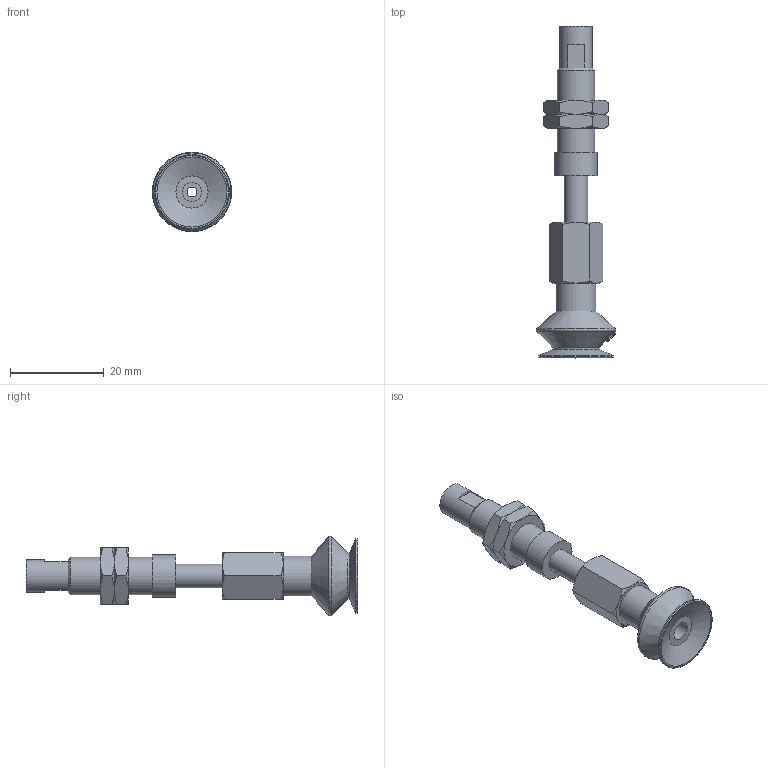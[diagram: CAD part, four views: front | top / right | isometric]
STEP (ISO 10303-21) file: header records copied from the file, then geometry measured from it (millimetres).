
FILE_DESCRIPTION(('STEP AP203'),'1');
FILE_NAME('.stp','2025-08-27T01:04:47',(' '),(' '),'Spatial InterOp 3D',' ',' ');
FILE_SCHEMA(('CONFIG_CONTROL_DESIGN'));
Length unit declared in the file: millimetre
Products named in the file (8): BNABPBTS-15A-10-※; ADAPTER; NAPATS-10A-10--M; Nut-15A-S-PB; NAPBTS-15A-10--F; BPBG-15A-※; __27; BPBG-15A
Assembly tree (8 placements, depth 3):
  BNABPBTS-15A-10-※
    ADAPTER
    NAPATS-10A-10--M
    Nut-15A-S-PB  x2
    NAPBTS-15A-10--F
    BPBG-15A-※
      __27
      BPBG-15A
Bounding box: 17 x 71 x 17 mm (x, y, z)
Volume: 4592 mm3; surface area: 4842.4 mm2
Topology: 7 solids, 7 shells, 128 faces, 272 edges, 166 vertices
Faces by surface type: cone 50, plane 42, cylinder 17, torus 11, bspline 8
Full cylindrical faces by diameter (mm): 2 x2, 4 x3, 4.134 x1, 5 x2, 6 x2, 7 x1, 7.188 x2, 8 x1, 8.5 x1, 9 x1, 16 x1
Entity records: 4261 total; most frequent: CARTESIAN_POINT 1885, DIRECTION 405, ORIENTED_EDGE 350, AXIS2_PLACEMENT_3D 188, EDGE_CURVE 175, EDGE_LOOP 159, FACE_OUTER_BOUND 132, VERTEX_POINT 126
